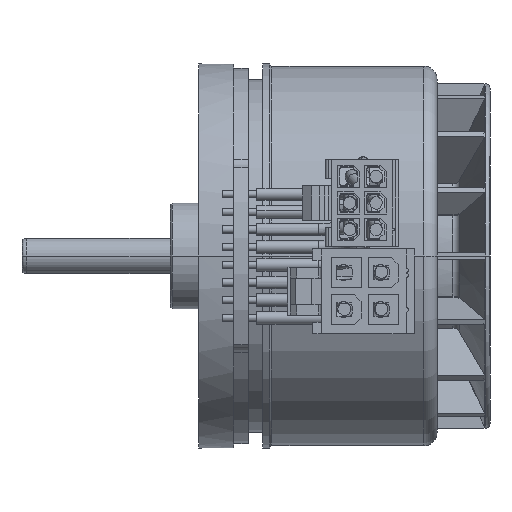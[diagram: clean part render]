
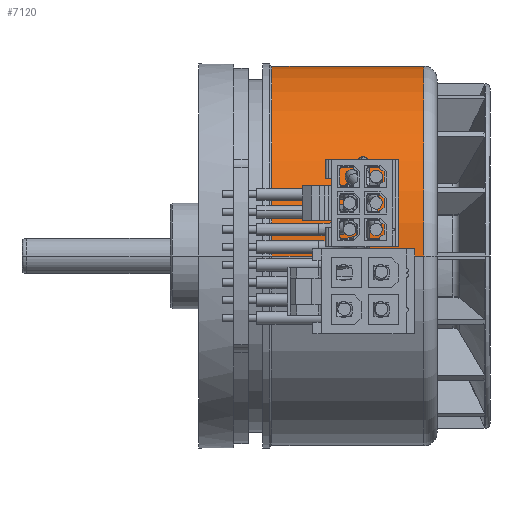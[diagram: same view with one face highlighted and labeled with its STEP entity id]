
A CAD part, front view. The second image highlights one B-rep face of the part: STEP entity #7120.
In plain terms, the highlighted cylindrical face has radius 21.5 mm (diameter 43 mm), a partial arc.
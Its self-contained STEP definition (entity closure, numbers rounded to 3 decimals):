
#913=CARTESIAN_POINT('',(25.5,0.,0.));
#914=DIRECTION('',(1.,0.,0.));
#915=DIRECTION('',(0.,1.,0.));
#916=AXIS2_PLACEMENT_3D('',#913,#914,#915);
#921=CARTESIAN_POINT('',(8.3,0.,0.));
#922=DIRECTION('',(1.,0.,0.));
#923=DIRECTION('',(0.,1.,0.));
#924=AXIS2_PLACEMENT_3D('',#921,#922,#923);
#929=DIRECTION('',(-1.,0.,0.));
#930=VECTOR('',#929,17.2);
#931=CARTESIAN_POINT('',(25.5,21.5,0.));
#932=LINE('',#931,#930);
#944=DIRECTION('',(-1.,0.,0.));
#945=VECTOR('',#944,17.2);
#946=CARTESIAN_POINT('',(25.5,-21.5,0.));
#947=LINE('',#946,#945);
#5445=CARTESIAN_POINT('',(25.5,21.5,0.));
#5447=VERTEX_POINT('',#5445);
#5453=CARTESIAN_POINT('',(25.5,-21.5,0.));
#5455=VERTEX_POINT('',#5453);
#5538=CARTESIAN_POINT('',(8.3,21.5,0.));
#5539=VERTEX_POINT('',#5538);
#5540=CARTESIAN_POINT('',(8.3,-21.5,0.));
#5541=VERTEX_POINT('',#5540);
#7106=CARTESIAN_POINT('',(0.,0.,0.));
#7107=DIRECTION('',(1.,0.,0.));
#7108=DIRECTION('',(0.,-1.,0.));
#7109=AXIS2_PLACEMENT_3D('',#7106,#7107,#7108);
#7110=CYLINDRICAL_SURFACE('',#7109,21.5);
#7112=ORIENTED_EDGE('',*,*,#7111,.F.);
#7113=ORIENTED_EDGE('',*,*,#7101,.T.);
#7115=ORIENTED_EDGE('',*,*,#7114,.T.);
#7117=ORIENTED_EDGE('',*,*,#7116,.F.);
#7118=EDGE_LOOP('',(#7112,#7113,#7115,#7117));
#7119=FACE_OUTER_BOUND('',#7118,.F.);
#7120=ADVANCED_FACE('',(#7119),#7110,.T.);
#917=CIRCLE('',#916,21.5);
#925=CIRCLE('',#924,21.5);
#7101=EDGE_CURVE('',#5447,#5455,#917,.T.);
#7111=EDGE_CURVE('',#5447,#5539,#932,.T.);
#7114=EDGE_CURVE('',#5455,#5541,#947,.T.);
#7116=EDGE_CURVE('',#5539,#5541,#925,.T.);
